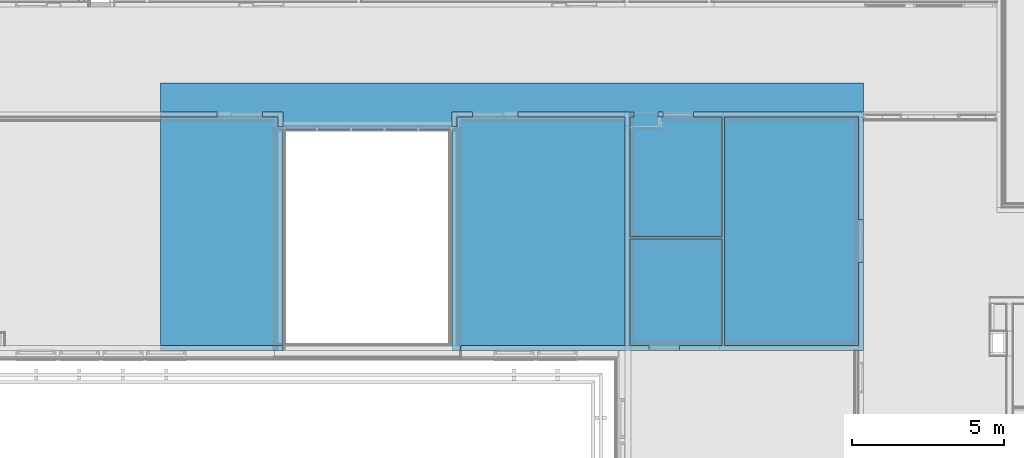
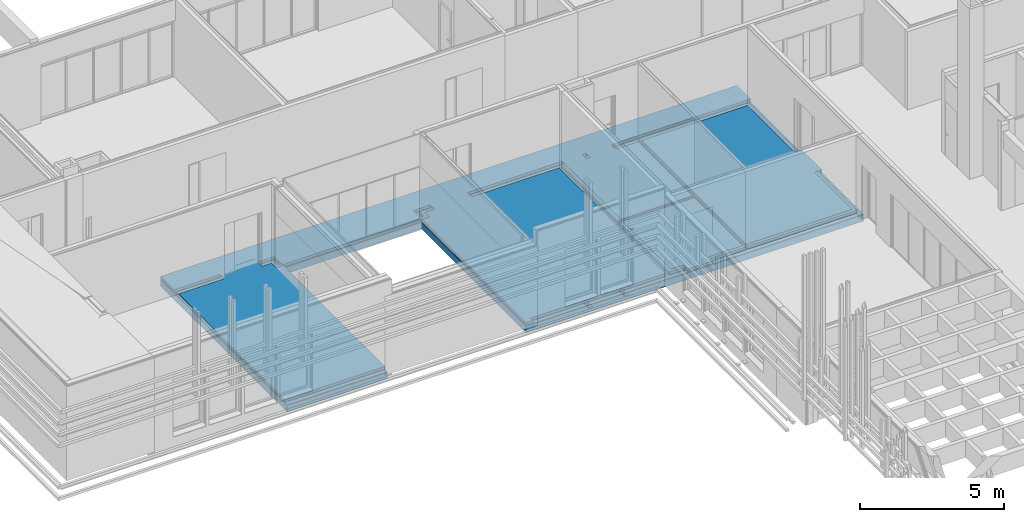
# One storey, part 85 of 139: 5 building element parts, 1 element without a shape of its own.
"""IFC2X3 building model written with IfcOpenShell, lengths in millimetres."""

from ifc_helpers import new_model, entity, si_unit, converted_unit, derived_unit, money_unit, direction, frame, origin_with_axes, place, context, subcontext, project, spatial, faceted_brep, material, type_object, element, aggregate, save


model = new_model("IFC2X3")

# Units and contexts
model_context = context("Model", 3, precision=0.01, world=origin_with_axes(), true_north=direction((0.0, 1.0)))
body_context = subcontext(model_context, "Body", "Model", "MODEL_VIEW")
ifc_project = project(units=[si_unit("LENGTHUNIT", "METRE", prefix="MILLI"), si_unit("AREAUNIT", "SQUARE_METRE"), si_unit("VOLUMEUNIT", "CUBIC_METRE"), converted_unit("PLANEANGLEUNIT", "DEGREE", entity("IfcPlaneAngleMeasure", 0.0174532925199), si_unit("PLANEANGLEUNIT", "RADIAN"), dimensions=[0, 0, 0, 0, 0, 0, 0]), money_unit("EUR"), converted_unit("TIMEUNIT", "Year", entity("IfcTimeMeasure", 31556926.0), si_unit("TIMEUNIT", "SECOND"), dimensions=[0, 0, 1, 0, 0, 0, 0]), si_unit("MASSUNIT", "GRAM", prefix="KILO"), si_unit("THERMODYNAMICTEMPERATUREUNIT", "DEGREE_CELSIUS"), si_unit("LUMINOUSINTENSITYUNIT", "LUMEN"), si_unit("ENERGYUNIT", "JOULE", prefix="MEGA"), derived_unit("THERMALCONDUCTANCEUNIT", [(si_unit("POWERUNIT", "WATT"), 1), (si_unit("LENGTHUNIT", "METRE"), -1), (si_unit("THERMODYNAMICTEMPERATUREUNIT", "KELVIN"), -1)]), derived_unit("SPECIFICHEATCAPACITYUNIT", [(si_unit("ENERGYUNIT", "JOULE"), 1), (si_unit("MASSUNIT", "GRAM", prefix="KILO"), -1), (si_unit("THERMODYNAMICTEMPERATUREUNIT", "KELVIN"), -1)]), derived_unit("MASSDENSITYUNIT", [(si_unit("MASSUNIT", "GRAM", prefix="KILO"), 1), (si_unit("VOLUMEUNIT", "CUBIC_METRE"), -1)])], contexts=[model_context])

# Site, building, storey
site_placement = place(None, origin_with_axes())
site = spatial("IfcSite", under=ifc_project, at=site_placement, Name="Kolde pst 67a", CompositionType="ELEMENT")
building_placement = place(site_placement, origin_with_axes())
building = spatial("IfcBuilding", under=site, at=building_placement, Name="Riigigümnaasium", CompositionType="ELEMENT")
storey_placement = place(building_placement, frame((0.0, 0.0, 4600.0), z_axis=(0.0, 0.0, 1.0), x_axis=(1.0, 0.0, 0.0)))
storey = spatial("IfcBuildingStorey", under=building, at=storey_placement, Name="2. korrus", CompositionType="ELEMENT", Elevation=4600.0)

# Slab, building element parts
slab_type = type_object("IfcSlabType", Name="VL-CLT-28/1_PVC kate 430", PredefinedType="NOTDEFINED")
slab_placement = place(storey_placement, frame((8754.99317447, 48040.0125119, 0.0), z_axis=(0.0, 0.0, 1.0), x_axis=(1.0, 0.0, 0.0)))
slab = element("IfcSlab", 1, at=slab_placement, inside=storey, type_object=slab_type, Name="VAHELAGI", PredefinedType="NOTDEFINED")
ifc_material_1 = material(Name="_VIIMISTLUSKIHT - viimistlus vastavalt SA osale")
building_element_part_1_placement = place(slab_placement, origin_with_axes())
building_element_part_1 = element("IfcBuildingElementPart", 2, at=building_element_part_1_placement, material=ifc_material_1, Name="_VIIMISTLUSKIHT - viimistlus vastavalt SA osale", context=body_context, shape_type="Brep", body=[
    faceted_brep([(3350.00427591, 7559.95603703, -3.0), (3350.00427591, 7559.95603703, 0.0), (3735.00431974, 7559.95491195, 0.0), (3735.00431974, 7559.95491195, -3.0), (3350.00512337, 7849.95603703, -3.0), (3350.00512337, 7849.95603703, 0.0), (0.0, 7559.96582666, 0.0), (0.0, 159.968318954, 0.0), (4025.00431708, 159.968318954, 0.0), (4025.00422173, 7244.98148076, 0.0), (3725.00431974, 7244.98148076, 0.0), (3725.00431974, 7374.92759282, 0.0), (3735.00431974, 7374.92759282, 0.0), (4025.00431974, 7849.95406449, 0.0), (4025.00431974, 7374.92759282, 0.0), (4025.00431923, 7274.93024814, 0.0), (9595.01036973, 7274.99476301, 0.0), (9595.01075126, 7374.99573975, 0.0), (9595.01036973, 7849.96806703, 0.0), (10270.009714, 7849.96809243, 0.0), (10270.0104055, 7559.96808971, 0.0), (9885.01036973, 7559.96808971, 0.0), (9885.01036973, 7374.99573975, 0.0), (9895.01036973, 7374.99573975, 0.0), (9895.01036973, 7244.98148076, 0.0), (9595.0110613, 7244.98148076, 0.0), (9595.01036973, -0.0316810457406, 0.0), (9870.01036973, -0.0316810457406, 0.0), (9870.01036973, 159.968318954, 0.0), (15285.0095597, 159.968318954, 0.0), (15285.0095597, 7559.96808971, 0.0), (11770.0104055, 7559.96808971, 0.0), (11770.009714, 7849.96808962, 0.0), (15285.0095597, 7849.96808971, 0.0), (15285.0095597, 7849.9816581, 0.0), (15575.0095597, 7849.97982241, 0.0), (15577.0095597, 7849.97980975, 0.0), (15577.0085469, 7689.97980975, 0.0), (15575.0095597, 7689.9798224, 0.0), (15575.0095597, 3776.98767249, 0.0), (18458.0104071, 3776.98767249, 0.0), (18458.0104071, 7559.96157294, 0.0), (17544.9872642, 7559.96735239, 0.0), (17544.9890999, 7849.96735239, 0.0), (22975.0096027, 7849.93304377, 0.0), (23135.0096027, 7849.93304377, 0.0), (23135.009605, 8799.52258839, 0.0), (0.0, 8799.52258839, 0.0), (0.0, 7849.96582666, 0.0), (1850.00512338, 7849.96042044, 0.0), (1850.00427592, 7559.96042044, 0.0), (16377.0095723, 7559.97474572, 0.0), (16377.011408, 7849.97474571, 0.0), (16544.9890999, 7849.97368241, 0.0), (16544.9872642, 7559.97368242, 0.0), (3735.00431974, 7374.92759282, -3.0), (0.0, 159.968318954, -3.0), (0.0, 7559.96582666, -3.0), (1850.00427592, 7559.96042044, -3.0), (1850.00512338, 7849.96042044, -3.0), (0.0, 7849.96582666, -3.0), (0.0, 8799.52258839, -3.0), (23135.009605, 8799.52258839, -3.0), (23135.009605, 7849.93224801, -3.0), (17544.9890999, 7849.96735239, -3.0), (17544.9872642, 7559.96735239, -3.0), (18458.0104071, 7559.96157294, -3.0), (18458.0104071, 3776.98767249, -3.0), (15575.0095597, 3776.98767249, -3.0), (15575.0095597, 7689.9798224, -3.0), (15577.0085469, 7689.97980975, -3.0), (15577.0095597, 7849.97980975, -3.0), (15575.0095597, 7849.97982241, -3.0), (15285.0095597, 7849.9816581, -3.0), (15285.0095597, 7849.96808971, -3.0), (11770.009714, 7849.96808962, -3.0), (11770.0104055, 7559.96808971, -3.0), (15285.0095597, 7559.96808971, -3.0), (15285.0095597, 159.968318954, -3.0), (9870.01036973, 159.968318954, -3.0), (9870.01036973, -0.0316810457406, -3.0), (9595.01036973, -0.0316810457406, -3.0), (9595.0110613, 7244.98148076, -3.0), (9895.01036973, 7244.98148076, -3.0), (9895.01036973, 7374.99573975, -3.0), (9885.01036973, 7374.99573975, -3.0), (9885.01036973, 7559.96808971, -3.0), (10270.0104055, 7559.96808971, -3.0), (10270.009714, 7849.96809243, -3.0), (9595.01036973, 7849.968067, -3.0), (9595.01075126, 7374.99573975, -3.0), (9595.01036973, 7274.99476301, -3.0), (4025.00431923, 7274.93024814, -3.0), (4025.00431974, 7374.92759282, -3.0), (4025.00431974, 7849.95406449, -3.0), (3725.00431974, 7374.92759282, -3.0), (3725.00431974, 7244.98148076, -3.0), (4025.00422173, 7244.98148076, -3.0), (4025.00431708, 159.968318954, -3.0), (16377.011408, 7849.97474571, -3.0), (16377.0095723, 7559.97474572, -3.0), (16544.9872642, 7559.97368242, -3.0), (16544.9890999, 7849.97368241, -3.0)], [[[0, 1, 2, 3]], [[1, 0, 4, 5]], [[6, 7, 8, 9, 10, 11, 12, 2, 1, 5, 13, 14, 15, 16, 17, 18, 19, 20, 21, 22, 23, 24, 25, 26, 27, 28, 29, 30, 31, 32, 33, 34, 35, 36, 37, 38, 39, 40, 41, 42, 43, 44, 45, 46, 47, 48, 49, 50], [51, 52, 53, 54]], [[12, 55, 3, 2]], [[56, 57, 58, 59, 60, 61, 62, 63, 64, 65, 66, 67, 68, 69, 70, 71, 72, 73, 74, 75, 76, 77, 78, 79, 80, 81, 82, 83, 84, 85, 86, 87, 88, 89, 90, 91, 92, 93, 94, 4, 0, 3, 55, 95, 96, 97, 98], [99, 100, 101, 102]], [[5, 4, 94, 13]], [[57, 56, 7, 6]], [[7, 56, 98, 8]], [[97, 9, 8, 98]], [[96, 10, 9, 97]], [[96, 95, 11, 10]], [[95, 55, 12, 11]], [[94, 93, 14, 13]], [[93, 92, 15, 14]], [[92, 91, 16, 15]], [[91, 90, 17, 16]], [[17, 90, 89, 18]], [[89, 88, 19, 18]], [[88, 87, 20, 19]], [[87, 86, 21, 20]], [[85, 22, 21, 86]], [[85, 84, 23, 22]], [[83, 24, 23, 84]], [[83, 82, 25, 24]], [[82, 81, 26, 25]], [[26, 81, 80, 27]], [[27, 80, 79, 28]], [[79, 78, 29, 28]], [[29, 78, 77, 30]], [[77, 76, 31, 30]], [[31, 76, 75, 32]], [[75, 74, 33, 32]], [[74, 73, 34, 33]], [[73, 72, 35, 34]], [[72, 71, 36, 35]], [[70, 37, 36, 71]], [[70, 69, 38, 37]], [[68, 39, 38, 69]], [[39, 68, 67, 40]], [[67, 66, 41, 40]], [[66, 65, 42, 41]], [[65, 64, 43, 42]], [[64, 63, 45, 44, 43]], [[45, 63, 62, 46]], [[61, 47, 46, 62]], [[61, 60, 48, 47]], [[60, 59, 49, 48]], [[58, 50, 49, 59]], [[57, 6, 50, 58]], [[51, 100, 99, 52]], [[52, 99, 102, 53]], [[101, 54, 53, 102]], [[100, 51, 54, 101]]]),
    faceted_brep([(16085.0095597, -0.0316810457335, -3.0), (16085.0095597, 289.968318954, -3.0), (15575.0095597, 289.968318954, -3.0), (15575.0095597, 3641.98767249, -3.0), (18458.0104071, 3641.98767249, -3.0), (18458.0104071, 289.968319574, -3.0), (17085.0095597, 289.968318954, -3.0), (17085.0095597, -0.0316810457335, -3.0), (16085.0095597, -0.0316810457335, 0.0), (16085.0095597, 289.968318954, 0.0), (15575.0095597, 289.968318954, 0.0), (15575.0095597, 3641.98767249, 0.0), (18458.0104071, 3641.98767249, 0.0), (18458.0104071, 289.968319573, 0.0), (17085.0095597, 289.968318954, 0.0), (17085.0095597, -0.0316810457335, 0.0)], [[[0, 1, 2, 3, 4, 5, 6, 7]], [[1, 0, 8, 9]], [[2, 1, 9, 10]], [[3, 2, 10, 11]], [[3, 11, 12, 4]], [[5, 4, 12, 13]], [[6, 5, 13, 14]], [[7, 6, 14, 15]], [[8, 0, 7, 15]], [[11, 10, 9, 8, 15, 14, 13, 12]]]),
    faceted_brep([(18593.0104071, 289.968320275, -3.0), (22845.0095603, 289.968320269, -3.0), (22845.0095603, 289.968320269, 0.0), (18593.0104071, 289.968320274, 0.0), (18593.0104071, 7559.96071838, -3.0), (22845.0096027, 7559.93380281, -3.0), (22845.0096027, 4307.81698713, -3.0), (23135.0096027, 4307.81698713, -3.0), (23135.0096027, 2887.81698713, -3.0), (22845.0096027, 2887.81698713, -3.0), (22845.0096027, 2887.81698713, 0.0), (23135.0096027, 2887.81698713, 0.0), (23135.0096027, 4307.81698713, 0.0), (22845.0096027, 4307.81698713, 0.0), (22845.0096027, 7559.93380281, 0.0), (18593.0104071, 7559.96071838, 0.0)], [[[0, 1, 2, 3]], [[1, 0, 4, 5, 6, 7, 8, 9]], [[1, 9, 10, 2]], [[3, 2, 10, 11, 12, 13, 14, 15]], [[0, 3, 15, 4]], [[5, 4, 15, 14]], [[6, 5, 14, 13]], [[7, 6, 13, 12]], [[11, 8, 7, 12]], [[9, 8, 11, 10]]]),
])
ifc_material_2 = material(Name="_PEALEVALUKIHT - raudbetoonplaat vastavalt EK osale, vajadusel põrandküte")
building_element_part_2_placement = place(slab_placement, origin_with_axes())
building_element_part_2 = element("IfcBuildingElementPart", 3, at=building_element_part_2_placement, material=ifc_material_2, Name="_PEALEVALUKIHT - raudbetoonplaat vastavalt EK osale, vajadusel põrandküte", context=body_context, shape_type="Brep", body=[
    faceted_brep([(15445.0095597, 3746.98767249, -3.0), (18488.0104071, 3746.98767249, -3.0), (18488.0104071, 7689.96138304, -3.0), (17544.9880871, 7689.96735239, -3.0), (17544.9890999, 7849.96735239, -3.0), (23135.0096027, 7849.93304377, -3.0), (23135.009605, 8799.52258839, -3.0), (0.0, 8799.52258839, -3.0), (0.0, 7849.96582666, -3.0), (1850.00512338, 7849.96042044, -3.0), (1850.00465581, 7689.96042044, -3.0), (0.0, 7689.96582666, -3.0), (0.0, 159.968318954, -3.0), (4025.00431923, 159.968318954, -3.0), (4025.00431923, 7274.93024814, -3.0), (9595.01036973, 7274.99476301, -3.0), (9595.01036973, -0.0316810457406, -3.0), (9870.01036973, -0.0316810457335, -3.0), (9870.01036973, 159.968318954, -3.0), (15285.0095597, 159.968318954, -3.0), (15285.0095597, 7689.96808971, -3.0), (11770.0100955, 7689.96808971, -3.0), (11770.009714, 7849.96808962, -3.0), (15285.0095597, 7849.96808971, -3.0), (15285.0095597, 7849.9816581, -3.0), (15445.0095597, 7849.98203964, -3.0), (15577.0095597, 7849.97980975, -3.0), (15577.0085469, 7689.97980975, -3.0), (15445.0095597, 7689.98064529, -3.0), (9595.01036973, 7374.99573975, -3.0), (9595.01036973, 7849.968067, -3.0), (10270.009714, 7849.96808958, -3.0), (10270.0100955, 7689.96808971, -3.0), (9755.01036973, 7689.96808971, -3.0), (9755.01036973, 7374.99573975, -3.0), (9895.01036973, 7374.99573975, -3.0), (9895.01036973, 7374.98148076, -3.0), (9595.0107513, 7374.98148076, -3.0), (16377.0103952, 7689.97474572, -3.0), (16377.011408, 7849.97474571, -3.0), (16544.9890999, 7849.97368241, -3.0), (16544.9880871, 7689.97368242, -3.0), (3350.00465581, 7689.95603703, -3.0), (3350.00512337, 7849.95603703, -3.0), (4025.00431974, 7849.95406449, -3.0), (4025.00431974, 7374.92759282, -3.0), (3865.00431974, 7374.92759282, -3.0), (3865.00431974, 7689.95453206, -3.0), (15445.0095597, 3746.98767249, -100.0), (18488.0104071, 3746.98767249, -100.0), (18488.0104071, 7689.96138304, -100.0), (17544.9880871, 7689.96735239, -100.0), (17544.9890999, 7849.96735239, -100.0), (23135.0096027, 7849.93304377, -100.0), (23135.009605, 8799.52258839, -100.0), (0.0, 8799.52258839, -100.0), (0.0, 7849.96582666, -100.0), (1850.00512338, 7849.96042044, -100.0), (1850.00465581, 7689.96042044, -100.0), (0.0, 7689.96582666, -100.0), (0.0, 159.968318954, -100.0), (4025.00431923, 159.968318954, -100.0), (4025.00431923, 7274.93024814, -100.0), (9595.01036973, 7274.99476301, -100.0), (9595.01036973, -0.0316810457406, -100.0), (9870.01036973, -0.0316810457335, -100.0), (9870.01036973, 159.968318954, -100.0), (15285.0095597, 159.968318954, -100.0), (15285.0095597, 7689.96808971, -100.0), (11770.0100955, 7689.96808971, -100.0), (11770.009714, 7849.96808964, -100.0), (15285.0095597, 7849.96808971, -100.0), (15285.0095597, 7849.9816581, -100.0), (15445.0095597, 7849.98203964, -100.0), (15577.0095597, 7849.97980975, -100.0), (15577.0085469, 7689.97980975, -100.0), (15445.0095597, 7689.98064529, -100.0), (9595.01036973, 7374.99573975, -100.0), (9595.01036973, 7849.96806635, -100.0), (10270.009714, 7849.96808961, -100.0), (10270.0100955, 7689.96808971, -100.0), (9755.01036973, 7689.96808971, -100.0), (9755.01036973, 7374.99573975, -100.0), (9895.01036973, 7374.99573975, -100.0), (9895.01036973, 7374.98148076, -100.0), (9595.0107513, 7374.98148076, -100.0), (16377.0103952, 7689.97474572, -100.0), (16377.011408, 7849.97474571, -100.0), (16544.9890999, 7849.97368241, -100.0), (16544.9880871, 7689.97368242, -100.0), (3350.00465581, 7689.95603703, -100.0), (3350.00512337, 7849.95603703, -100.0), (4025.00431974, 7849.95406449, -100.0), (4025.00431974, 7374.92759282, -100.0), (3865.00431974, 7374.92759282, -100.0), (3865.00431974, 7689.95453206, -100.0)], [[[0, 1, 2, 3, 4, 5, 6, 7, 8, 9, 10, 11, 12, 13, 14, 15, 16, 17, 18, 19, 20, 21, 22, 23, 24, 25, 26, 27, 28], [29, 30, 31, 32, 33, 34, 35, 36, 37], [38, 39, 40, 41], [42, 43, 44, 45, 46, 47]], [[0, 48, 49, 1]], [[50, 2, 1, 49]], [[2, 50, 51, 3]], [[4, 3, 51, 52]], [[52, 53, 5, 4]], [[5, 53, 54, 6]], [[6, 54, 55, 7]], [[56, 8, 7, 55]], [[9, 8, 56, 57]], [[10, 9, 57, 58]], [[11, 10, 58, 59]], [[60, 12, 11, 59]], [[61, 13, 12, 60]], [[13, 61, 62, 14]], [[14, 62, 63, 15]], [[15, 63, 64, 16]], [[65, 17, 16, 64]], [[18, 17, 65, 66]], [[67, 19, 18, 66]], [[20, 19, 67, 68]], [[20, 68, 69, 21]], [[22, 21, 69, 70]], [[71, 23, 22, 70]], [[24, 23, 71, 72]], [[73, 25, 24, 72]], [[25, 73, 74, 26]], [[27, 26, 74, 75]], [[76, 28, 27, 75]], [[0, 28, 76, 48]], [[30, 29, 77, 78]], [[31, 30, 78, 79]], [[32, 31, 79, 80]], [[81, 33, 32, 80]], [[34, 33, 81, 82]], [[34, 82, 83, 35]], [[36, 35, 83, 84]], [[37, 36, 84, 85]], [[77, 29, 37, 85]], [[39, 38, 86, 87]], [[40, 39, 87, 88]], [[41, 40, 88, 89]], [[38, 41, 89, 86]], [[43, 42, 90, 91]], [[44, 43, 91, 92]], [[45, 44, 92, 93]], [[46, 45, 93, 94]], [[95, 47, 46, 94]], [[42, 47, 95, 90]], [[48, 76, 75, 74, 73, 72, 71, 70, 69, 68, 67, 66, 65, 64, 63, 62, 61, 60, 59, 58, 57, 56, 55, 54, 53, 52, 51, 50, 49], [78, 77, 85, 84, 83, 82, 81, 80, 79], [86, 89, 88, 87], [90, 95, 94, 93, 92, 91]]]),
    faceted_brep([(18563.0104071, 7689.96090829, -100.0), (18563.0104071, 7689.96090829, -3.0), (22975.0096027, 7689.93298023, -3.0), (22975.0096027, 7689.93298023, -100.0), (18563.0104071, 159.968318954, -3.0), (18563.0104071, 159.968318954, -100.0), (22975.0096027, 159.968318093, -3.0), (22975.0096027, 2887.81698713, -3.0), (23135.0096027, 2887.81698713, -3.0), (23135.0096027, 4307.81698713, -3.0), (22975.0096027, 4307.81698713, -3.0), (22975.0096027, 4307.81698713, -100.0), (23135.0096027, 4307.81698713, -100.0), (23135.0096027, 2887.81698713, -100.0), (22975.0096027, 2887.81698713, -100.0), (22975.0096027, 159.968318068, -100.0)], [[[0, 1, 2, 3]], [[4, 1, 0, 5]], [[1, 4, 6, 7, 8, 9, 10, 2]], [[3, 2, 10, 11]], [[5, 0, 3, 11, 12, 13, 14, 15]], [[4, 5, 15, 6]], [[7, 6, 15, 14]], [[13, 8, 7, 14]], [[8, 13, 12, 9]], [[10, 9, 12, 11]]]),
    faceted_brep([(15445.0095597, 3671.98767249, -100.0), (15445.0095597, 3671.98767249, -3.0), (18488.0104071, 3671.98767249, -3.0), (18488.0104071, 3671.98767249, -100.0), (15445.0095597, 159.968318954, -3.0), (15445.0095597, 159.968318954, -100.0), (15485.0095597, 159.968318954, -3.0), (16085.0095597, 159.968318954, -3.0), (16085.0095597, -0.0316810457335, -3.0), (17085.0095597, -0.0316810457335, -3.0), (17085.0095597, 159.968318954, -3.0), (18488.0104071, 159.968318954, -3.0), (18488.0104071, 159.968318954, -100.0), (17085.0095597, 159.968318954, -100.0), (17085.0095597, -0.0316810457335, -100.0), (16085.0095597, -0.0316810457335, -100.0), (16085.0095597, 159.968318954, -100.0), (15485.0095597, 159.968318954, -100.0)], [[[0, 1, 2, 3]], [[4, 1, 0, 5]], [[1, 4, 6, 7, 8, 9, 10, 11, 2]], [[3, 2, 11, 12]], [[5, 0, 3, 12, 13, 14, 15, 16, 17]], [[4, 5, 17, 6]], [[7, 6, 17, 16]], [[8, 7, 16, 15]], [[14, 9, 8, 15]], [[10, 9, 14, 13]], [[12, 11, 10, 13]]]),
])
ifc_material_3 = material(Name="_ISOLATSIOON - löögimüraisolatsioon, mineraalvill, koormustaluvus min 20 kPa, dünaamiline jäikus 16 MN/m³, ISOVER FLO või samaväärne")
building_element_part_3_placement = place(slab_placement, origin_with_axes())
building_element_part_3 = element("IfcBuildingElementPart", 4, at=building_element_part_3_placement, material=ifc_material_3, Name="_ISOLATSIOON - löögimüraisolatsioon, mineraalvill, koormustaluvus min 20 kPa, dünaamiline jäikus 16 MN/m³, ISOVER FLO või samaväärne", context=body_context, shape_type="Brep", body=[
    faceted_brep([(15445.0095597, 3746.98767249, -100.0), (18488.0104071, 3746.98767249, -100.0), (18488.0104071, 7689.96138304, -100.0), (17544.9880871, 7689.96735239, -100.0), (17544.9890999, 7849.96735239, -100.0), (23135.0096027, 7849.93304377, -100.0), (23135.009605, 8799.52258839, -100.0), (0.0, 8799.52258839, -100.0), (0.0, 7849.96582666, -100.0), (1850.00512338, 7849.96042044, -100.0), (1850.00465581, 7689.96042044, -100.0), (0.0, 7689.96582666, -100.0), (0.0, 159.968318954, -100.0), (4025.00431923, 159.968318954, -100.0), (4025.00431923, 7274.93024814, -100.0), (9595.01036973, 7274.99476301, -100.0), (9595.01036973, -0.0316810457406, -100.0), (9870.01036973, -0.0316810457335, -100.0), (9870.01036973, 159.968318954, -100.0), (15285.0095597, 159.968318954, -100.0), (15285.0095597, 7689.96808971, -100.0), (11770.0100955, 7689.96808971, -100.0), (11770.009714, 7849.96808964, -100.0), (15285.0095597, 7849.96808971, -100.0), (15285.0095597, 7849.9816581, -100.0), (15445.0095597, 7849.98203964, -100.0), (15577.0095597, 7849.97980975, -100.0), (15577.0085469, 7689.97980975, -100.0), (15445.0095597, 7689.98064529, -100.0), (9595.01036973, 7374.99573975, -100.0), (9595.01036973, 7849.96806635, -100.0), (10270.009714, 7849.96808961, -100.0), (10270.0100955, 7689.96808971, -100.0), (9755.01036973, 7689.96808971, -100.0), (9755.01036973, 7374.99573975, -100.0), (9895.01036973, 7374.99573975, -100.0), (9895.01036973, 7374.98148076, -100.0), (9595.0107513, 7374.98148076, -100.0), (16377.0103952, 7689.97474572, -100.0), (16377.011408, 7849.97474571, -100.0), (16544.9890999, 7849.97368241, -100.0), (16544.9880871, 7689.97368242, -100.0), (3350.00465581, 7689.95603703, -100.0), (3350.00512337, 7849.95603703, -100.0), (4025.00431974, 7849.95406449, -100.0), (4025.00431974, 7374.92759282, -100.0), (3865.00431974, 7374.92759282, -100.0), (3865.00431974, 7689.95453206, -100.0), (15445.0095597, 3746.98767249, -130.0), (18488.0104071, 3746.98767249, -130.0), (18488.0104071, 7689.96138304, -130.0), (17544.9880871, 7689.96735239, -130.0), (17544.9890999, 7849.96735239, -130.0), (23135.0096027, 7849.93304377, -130.0), (23135.009605, 8799.52258839, -130.0), (0.0, 8799.52258839, -130.0), (0.0, 7849.96582666, -130.0), (1850.00512338, 7849.96042044, -130.0), (1850.00465581, 7689.96042044, -130.0), (0.0, 7689.96582666, -130.0), (0.0, 159.968318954, -130.0), (4025.00431923, 159.968318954, -130.0), (4025.00431923, 7274.93024814, -130.0), (9595.01036973, 7274.99476301, -130.0), (9595.01036973, -0.0316810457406, -130.0), (9870.01036973, -0.0316810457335, -130.0), (9870.01036973, 159.968318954, -130.0), (15285.0095597, 159.968318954, -130.0), (15285.0095597, 7689.96808971, -130.0), (11770.0100955, 7689.96808971, -130.0), (11770.009714, 7849.96808965, -130.0), (15285.0095597, 7849.96808971, -130.0), (15285.0095597, 7849.9816581, -130.0), (15445.0095597, 7849.98203964, -130.0), (15577.0095597, 7849.97980975, -130.0), (15577.0085469, 7689.97980975, -130.0), (15445.0095597, 7689.98064529, -130.0), (9595.01036973, 7374.99573975, -130.0), (9595.01036973, 7849.96806615, -130.0), (10270.009714, 7849.96808962, -130.0), (10270.0100955, 7689.96808971, -130.0), (9755.01036973, 7689.96808971, -130.0), (9755.01036973, 7374.99573975, -130.0), (9895.01036973, 7374.99573975, -130.0), (9895.01036973, 7374.98148076, -130.0), (9595.0107513, 7374.98148076, -130.0), (16377.0103952, 7689.97474572, -130.0), (16377.011408, 7849.97474571, -130.0), (16544.9890999, 7849.97368241, -130.0), (16544.9880871, 7689.97368242, -130.0), (3350.00465581, 7689.95603703, -130.0), (3350.00512337, 7849.95603703, -130.0), (3865.00431974, 7849.95453206, -130.0), (4025.00431974, 7849.95406449, -130.0), (4025.00431974, 7374.92759282, -130.0), (3865.00431974, 7374.92759282, -130.0), (3865.00431974, 7689.95453206, -130.0)], [[[0, 1, 2, 3, 4, 5, 6, 7, 8, 9, 10, 11, 12, 13, 14, 15, 16, 17, 18, 19, 20, 21, 22, 23, 24, 25, 26, 27, 28], [29, 30, 31, 32, 33, 34, 35, 36, 37], [38, 39, 40, 41], [42, 43, 44, 45, 46, 47]], [[0, 48, 49, 1]], [[50, 2, 1, 49]], [[2, 50, 51, 3]], [[4, 3, 51, 52]], [[52, 53, 5, 4]], [[5, 53, 54, 6]], [[6, 54, 55, 7]], [[56, 8, 7, 55]], [[9, 8, 56, 57]], [[10, 9, 57, 58]], [[11, 10, 58, 59]], [[60, 12, 11, 59]], [[61, 13, 12, 60]], [[13, 61, 62, 14]], [[14, 62, 63, 15]], [[15, 63, 64, 16]], [[65, 17, 16, 64]], [[18, 17, 65, 66]], [[67, 19, 18, 66]], [[20, 19, 67, 68]], [[20, 68, 69, 21]], [[22, 21, 69, 70]], [[71, 23, 22, 70]], [[24, 23, 71, 72]], [[73, 25, 24, 72]], [[25, 73, 74, 26]], [[27, 26, 74, 75]], [[76, 28, 27, 75]], [[0, 28, 76, 48]], [[30, 29, 77, 78]], [[31, 30, 78, 79]], [[32, 31, 79, 80]], [[81, 33, 32, 80]], [[34, 33, 81, 82]], [[34, 82, 83, 35]], [[36, 35, 83, 84]], [[37, 36, 84, 85]], [[77, 29, 37, 85]], [[39, 38, 86, 87]], [[40, 39, 87, 88]], [[41, 40, 88, 89]], [[38, 41, 89, 86]], [[43, 42, 90, 91]], [[44, 43, 91, 92, 93]], [[45, 44, 93, 94]], [[46, 45, 94, 95]], [[96, 47, 46, 95]], [[42, 47, 96, 90]], [[48, 76, 75, 74, 73, 72, 71, 70, 69, 68, 67, 66, 65, 64, 63, 62, 61, 60, 59, 58, 57, 56, 55, 54, 53, 52, 51, 50, 49], [78, 77, 85, 84, 83, 82, 81, 80, 79], [86, 89, 88, 87], [90, 96, 95, 94, 93, 92, 91]]]),
    faceted_brep([(18563.0104071, 7689.96090829, -130.0), (18563.0104071, 7689.96090829, -100.0), (22975.0096027, 7689.93298023, -100.0), (22975.0096027, 7689.93298023, -130.0), (18563.0104071, 159.968318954, -100.0), (18563.0104071, 159.968318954, -130.0), (22975.0096027, 159.968318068, -100.0), (22975.0096027, 2887.81698713, -100.0), (23135.0096027, 2887.81698713, -100.0), (23135.0096027, 4307.81698713, -100.0), (22975.0096027, 4307.81698713, -100.0), (22975.0096027, 4307.81698713, -130.0), (23135.0096027, 4307.81698713, -130.0), (23135.0096027, 2887.81698713, -130.0), (22975.0096027, 2887.81698713, -130.0), (22975.0096027, 159.96831806, -130.0)], [[[0, 1, 2, 3]], [[4, 1, 0, 5]], [[1, 4, 6, 7, 8, 9, 10, 2]], [[3, 2, 10, 11]], [[5, 0, 3, 11, 12, 13, 14, 15]], [[4, 5, 15, 6]], [[7, 6, 15, 14]], [[13, 8, 7, 14]], [[8, 13, 12, 9]], [[10, 9, 12, 11]]]),
    faceted_brep([(15445.0095597, 3671.98767249, -130.0), (15445.0095597, 3671.98767249, -100.0), (18488.0104071, 3671.98767249, -100.0), (18488.0104071, 3671.98767249, -130.0), (15445.0095597, 159.968318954, -100.0), (15445.0095597, 159.968318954, -130.0), (15485.0095597, 159.968318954, -100.0), (16085.0095597, 159.968318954, -100.0), (16085.0095597, -0.0316810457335, -100.0), (17085.0095597, -0.0316810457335, -100.0), (17085.0095597, 159.968318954, -100.0), (18488.0104071, 159.968318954, -100.0), (18488.0104071, 159.968318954, -130.0), (18395.0104071, 159.968318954, -130.0), (17085.0095597, 159.968318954, -130.0), (17085.0095597, -0.0316810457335, -130.0), (16085.0095597, -0.0316810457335, -130.0), (16085.0095597, 159.968318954, -130.0), (15485.0095597, 159.968318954, -130.0)], [[[0, 1, 2, 3]], [[4, 1, 0, 5]], [[1, 4, 6, 7, 8, 9, 10, 11, 2]], [[3, 2, 11, 12]], [[5, 0, 3, 12, 13, 14, 15, 16, 17, 18]], [[4, 5, 18, 6]], [[7, 6, 18, 17]], [[8, 7, 17, 16]], [[15, 9, 8, 16]], [[10, 9, 15, 14]], [[12, 11, 10, 14, 13]]]),
])
ifc_material_4 = material(Name="_SOOJUSTUS - vahtpolüstüreenplaadid EPS 80, survetugevus min 80kPa, soojuserijuhtivus λD<0,038 W/(mK)")
building_element_part_4_placement = place(slab_placement, origin_with_axes())
building_element_part_4 = element("IfcBuildingElementPart", 5, at=building_element_part_4_placement, material=ifc_material_4, Name="_SOOJUSTUS - vahtpolüstüreenplaadid EPS 80, survetugevus min 80kPa, soojuserijuhtivus λD<0,038 W/(mK)", context=body_context, shape_type="Brep", body=[
    faceted_brep([(0.0, 0.0, -150.0), (972.644844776, 0.0, -150.0), (972.644844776, 0.0, -130.0), (0.0, 0.0, -130.0), (0.0, 8799.52258839, -150.0), (23135.009605, 8799.52258839, -150.0), (23135.009605, -0.0316810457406, -150.0), (15285.0095597, -0.0316810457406, -150.0), (9595.01036973, -0.0316810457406, -150.0), (9595.01036973, 7274.99476301, -150.0), (4025.00431923, 7274.93024814, -150.0), (4025.00431923, -0.0316810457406, -150.0), (972.644844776, -0.0316810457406, -150.0), (972.644844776, -0.0316810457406, -130.0), (0.0, 8799.52258839, -130.0), (4025.00431923, -0.0316810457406, -130.0), (4025.00431923, 7274.93024814, -130.0), (9595.01036973, 7274.99476301, -130.0), (9595.01036973, -0.0316810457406, -130.0), (15285.0095597, -0.0316810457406, -130.0), (23135.009605, -0.0316810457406, -130.0), (23135.009605, 8799.52258839, -130.0)], [[[0, 1, 2, 3]], [[1, 0, 4, 5, 6, 7, 8, 9, 10, 11, 12]], [[1, 12, 13, 2]], [[14, 3, 2, 13, 15, 16, 17, 18, 19, 20, 21]], [[4, 0, 3, 14]], [[5, 4, 14, 21]], [[6, 5, 21, 20]], [[7, 6, 20, 19]], [[8, 7, 19, 18]], [[9, 8, 18, 17]], [[10, 9, 17, 16]], [[11, 10, 16, 15]], [[12, 11, 15, 13]]]),
])
ifc_material_5 = material(Name="_KANDETARIND - CLT ristkihtliimpuit vastavalt EK osale, CLT paigaldusvuugid teibitakse ROTHOBLAAS teibiga")
building_element_part_5_placement = place(slab_placement, origin_with_axes())
building_element_part_5 = element("IfcBuildingElementPart", 6, at=building_element_part_5_placement, material=ifc_material_5, Name="_KANDETARIND - CLT ristkihtliimpuit vastavalt EK osale, CLT paigaldusvuugid teibitakse ROTHOBLAAS teibiga", context=body_context, shape_type="Brep", body=[
    faceted_brep([(972.644844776, 0.0, -150.0), (0.0, 0.0, -150.0), (0.0, 0.0, -430.0), (972.644844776, 0.0, -430.0), (23135.009605, 8799.52258839, -150.0), (0.0, 8799.52258839, -150.0), (972.644844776, -0.0316810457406, -150.0), (4025.00431923, -0.0316810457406, -150.0), (4025.00431923, 7274.93024814, -150.0), (9595.01036973, 7274.99476301, -150.0), (9595.01036973, -0.0316810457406, -150.0), (23135.009605, -0.0316810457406, -150.0), (0.0, 8799.52258839, -430.0), (972.644844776, -0.0316810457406, -430.0), (23135.009605, 8799.52258839, -430.0), (23135.009605, -0.0316810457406, -430.0), (9595.01036973, -0.0316810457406, -430.0), (9595.01036973, 7274.99476301, -430.0), (4025.00431923, 7274.93024814, -430.0), (4025.00431923, -0.0316810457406, -430.0)], [[[0, 1, 2, 3]], [[4, 5, 1, 0, 6, 7, 8, 9, 10, 11]], [[1, 5, 12, 2]], [[13, 3, 2, 12, 14, 15, 16, 17, 18, 19]], [[6, 0, 3, 13]], [[5, 4, 14, 12]], [[7, 6, 13, 19]], [[8, 7, 19, 18]], [[9, 8, 18, 17]], [[10, 9, 17, 16]], [[11, 10, 16, 15]], [[4, 11, 15, 14]]]),
])
aggregate(slab, [building_element_part_1, building_element_part_2, building_element_part_3, building_element_part_4, building_element_part_5])

save(model, "model.ifc")
